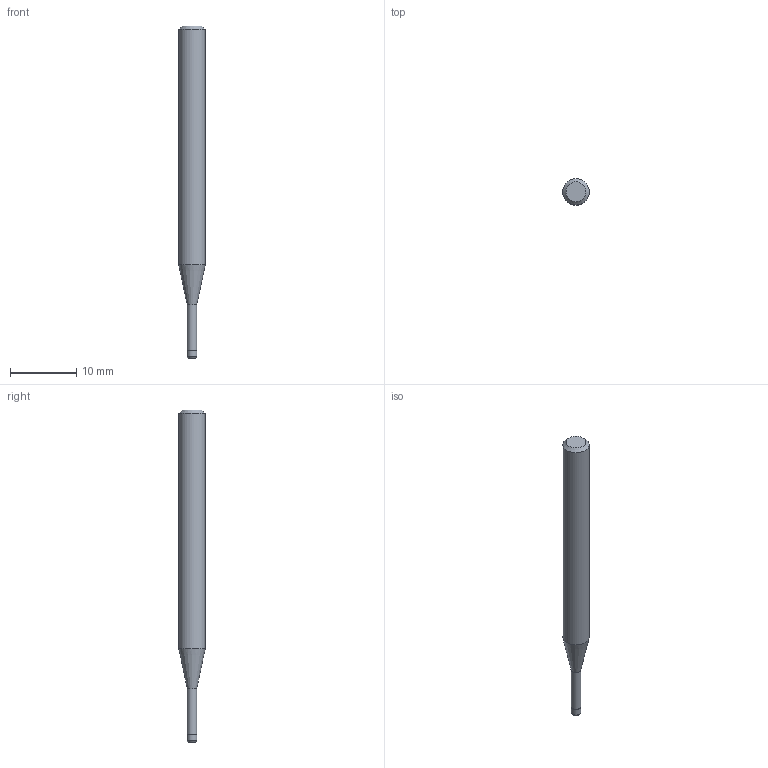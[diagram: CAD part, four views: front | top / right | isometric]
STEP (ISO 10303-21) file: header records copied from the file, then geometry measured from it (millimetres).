
FILE_DESCRIPTION((''),'2;1');
FILE_NAME('C:\Users\nsx150\AppData\Local\Temp\Mastercam 2021\3SYKECWX22\TEMP.step','2021-04-22T09:48:20',(''),(''),'STEP Write','Mastercam 2021 ... CNC Software, Inc.','');
FILE_SCHEMA(('AUTOMOTIVE_DESIGN'));
Length unit declared in the file: millimetre
Products named in the file (1): None
Bounding box: 4 x 4 x 50 mm (x, y, z)
Volume: 501 mm3; surface area: 554 mm2
Topology: 2 solids, 2 shells, 10 faces, 14 edges, 8 vertices
Faces by surface type: plane 4, cylinder 3, cone 2, torus 1
Full cylindrical faces by diameter (mm): 1.43 x1, 1.5 x1, 4 x1
Entity records: 232 total; most frequent: DIRECTION 40, CARTESIAN_POINT 28, AXIS2_PLACEMENT_3D 20, ORIENTED_EDGE 16, EDGE_LOOP 16, STYLED_ITEM 13, ADVANCED_FACE 10, FACE_BOUND 10
